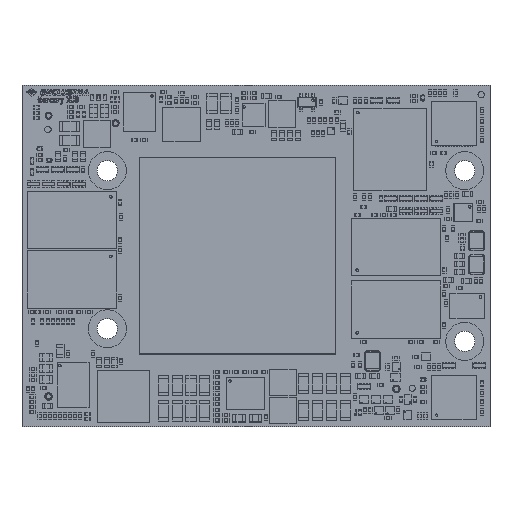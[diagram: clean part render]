
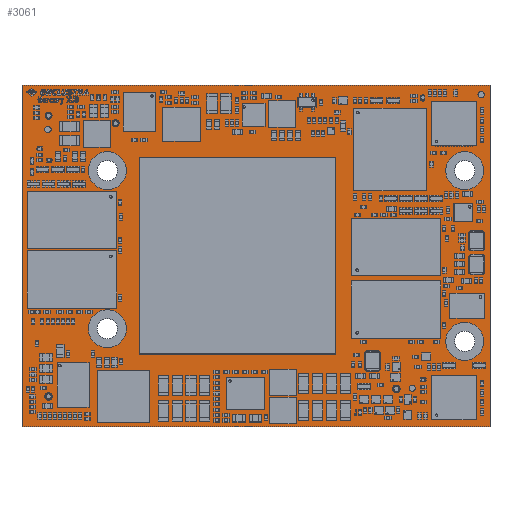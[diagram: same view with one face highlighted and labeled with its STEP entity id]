
A CAD part, top view. The second image highlights one B-rep face of the part: STEP entity #3061.
In plain terms, the highlighted planar face has unit normal (0, 0, 1).
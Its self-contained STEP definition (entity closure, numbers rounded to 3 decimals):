
#2572 = VERTEX_POINT('',#2573);
#2573 = CARTESIAN_POINT('',(0.,0.,1.6));
#2579 = EDGE_CURVE('',#2572,#2580,#2582,.T.);
#2580 = VERTEX_POINT('',#2581);
#2581 = CARTESIAN_POINT('',(74.,0.,1.6));
#2582 = LINE('',#2583,#2584);
#2583 = CARTESIAN_POINT('',(0.,0.,1.6));
#2584 = VECTOR('',#2585,1.);
#2585 = DIRECTION('',(1.,0.,0.));
#2610 = EDGE_CURVE('',#2580,#2611,#2613,.T.);
#2611 = VERTEX_POINT('',#2612);
#2612 = CARTESIAN_POINT('',(74.,54.,1.6));
#2613 = LINE('',#2614,#2615);
#2614 = CARTESIAN_POINT('',(74.,0.,1.6));
#2615 = VECTOR('',#2616,1.);
#2616 = DIRECTION('',(0.,1.,0.));
#2641 = EDGE_CURVE('',#2611,#2642,#2644,.T.);
#2642 = VERTEX_POINT('',#2643);
#2643 = CARTESIAN_POINT('',(0.,54.,1.6));
#2644 = LINE('',#2645,#2646);
#2645 = CARTESIAN_POINT('',(74.,54.,1.6));
#2646 = VECTOR('',#2647,1.);
#2647 = DIRECTION('',(-1.,0.,0.));
#2672 = EDGE_CURVE('',#2642,#2572,#2673,.T.);
#2673 = LINE('',#2674,#2675);
#2674 = CARTESIAN_POINT('',(0.,54.,1.6));
#2675 = VECTOR('',#2676,1.);
#2676 = DIRECTION('',(0.,-1.,0.));
#2696 = VERTEX_POINT('',#2697);
#2697 = CARTESIAN_POINT('',(4.8,4.8,1.6));
#2703 = EDGE_CURVE('',#2696,#2696,#2704,.T.);
#2704 = CIRCLE('',#2705,0.6);
#2705 = AXIS2_PLACEMENT_3D('',#2706,#2707,#2708);
#2706 = CARTESIAN_POINT('',(4.2,4.8,1.6));
#2707 = DIRECTION('',(0.,0.,1.));
#2708 = DIRECTION('',(1.,0.,0.));
#2729 = VERTEX_POINT('',#2730);
#2730 = CARTESIAN_POINT('',(15.35,6.,1.6));
#2736 = EDGE_CURVE('',#2729,#2729,#2737,.T.);
#2737 = CIRCLE('',#2738,0.55);
#2738 = AXIS2_PLACEMENT_3D('',#2739,#2740,#2741);
#2739 = CARTESIAN_POINT('',(14.8,6.,1.6));
#2740 = DIRECTION('',(0.,0.,1.));
#2741 = DIRECTION('',(1.,0.,0.));
#2762 = VERTEX_POINT('',#2763);
#2763 = CARTESIAN_POINT('',(4.75,49.2,1.6));
#2769 = EDGE_CURVE('',#2762,#2762,#2770,.T.);
#2770 = CIRCLE('',#2771,0.55);
#2771 = AXIS2_PLACEMENT_3D('',#2772,#2773,#2774);
#2772 = CARTESIAN_POINT('',(4.2,49.2,1.6));
#2773 = DIRECTION('',(0.,0.,1.));
#2774 = DIRECTION('',(1.,0.,0.));
#2795 = VERTEX_POINT('',#2796);
#2796 = CARTESIAN_POINT('',(15.1,15.5,1.6));
#2802 = EDGE_CURVE('',#2795,#2795,#2803,.T.);
#2803 = CIRCLE('',#2804,1.6);
#2804 = AXIS2_PLACEMENT_3D('',#2805,#2806,#2807);
#2805 = CARTESIAN_POINT('',(13.5,15.5,1.6));
#2806 = DIRECTION('',(0.,0.,1.));
#2807 = DIRECTION('',(1.,0.,0.));
#2828 = VERTEX_POINT('',#2829);
#2829 = CARTESIAN_POINT('',(15.1,40.5,1.6));
#2835 = EDGE_CURVE('',#2828,#2828,#2836,.T.);
#2836 = CIRCLE('',#2837,1.6);
#2837 = AXIS2_PLACEMENT_3D('',#2838,#2839,#2840);
#2838 = CARTESIAN_POINT('',(13.5,40.5,1.6));
#2839 = DIRECTION('',(0.,0.,1.));
#2840 = DIRECTION('',(1.,0.,0.));
#2861 = VERTEX_POINT('',#2862);
#2862 = CARTESIAN_POINT('',(59.8,6.,1.6));
#2868 = EDGE_CURVE('',#2861,#2861,#2869,.T.);
#2869 = CIRCLE('',#2870,0.6);
#2870 = AXIS2_PLACEMENT_3D('',#2871,#2872,#2873);
#2871 = CARTESIAN_POINT('',(59.2,6.,1.6));
#2872 = DIRECTION('',(0.,0.,1.));
#2873 = DIRECTION('',(1.,0.,0.));
#2894 = VERTEX_POINT('',#2895);
#2895 = CARTESIAN_POINT('',(71.6,13.5,1.6));
#2901 = EDGE_CURVE('',#2894,#2894,#2902,.T.);
#2902 = CIRCLE('',#2903,1.6);
#2903 = AXIS2_PLACEMENT_3D('',#2904,#2905,#2906);
#2904 = CARTESIAN_POINT('',(70.,13.5,1.6));
#2905 = DIRECTION('',(0.,0.,1.));
#2906 = DIRECTION('',(1.,0.,0.));
#2927 = VERTEX_POINT('',#2928);
#2928 = CARTESIAN_POINT('',(15.35,48.,1.6));
#2934 = EDGE_CURVE('',#2927,#2927,#2935,.T.);
#2935 = CIRCLE('',#2936,0.55);
#2936 = AXIS2_PLACEMENT_3D('',#2937,#2938,#2939);
#2937 = CARTESIAN_POINT('',(14.8,48.,1.6));
#2938 = DIRECTION('',(0.,0.,1.));
#2939 = DIRECTION('',(1.,0.,0.));
#2960 = VERTEX_POINT('',#2961);
#2961 = CARTESIAN_POINT('',(71.6,40.5,1.6));
#2967 = EDGE_CURVE('',#2960,#2960,#2968,.T.);
#2968 = CIRCLE('',#2969,1.6);
#2969 = AXIS2_PLACEMENT_3D('',#2970,#2971,#2972);
#2970 = CARTESIAN_POINT('',(70.,40.5,1.6));
#2971 = DIRECTION('',(0.,0.,1.));
#2972 = DIRECTION('',(1.,0.,0.));
#2993 = VERTEX_POINT('',#2994);
#2994 = CARTESIAN_POINT('',(59.8,48.,1.6));
#3000 = EDGE_CURVE('',#2993,#2993,#3001,.T.);
#3001 = CIRCLE('',#3002,0.6);
#3002 = AXIS2_PLACEMENT_3D('',#3003,#3004,#3005);
#3003 = CARTESIAN_POINT('',(59.2,48.,1.6));
#3004 = DIRECTION('',(0.,0.,1.));
#3005 = DIRECTION('',(1.,0.,0.));
#3061 = ADVANCED_FACE('',(#3062,#3068,#3071,#3074,#3077,#3080,#3083,
    #3086,#3089,#3092,#3095),#3098,.F.);
#3062 = FACE_BOUND('',#3063,.T.);
#3063 = EDGE_LOOP('',(#3064,#3065,#3066,#3067));
#3064 = ORIENTED_EDGE('',*,*,#2579,.T.);
#3065 = ORIENTED_EDGE('',*,*,#2610,.T.);
#3066 = ORIENTED_EDGE('',*,*,#2641,.T.);
#3067 = ORIENTED_EDGE('',*,*,#2672,.T.);
#3068 = FACE_BOUND('',#3069,.F.);
#3069 = EDGE_LOOP('',(#3070));
#3070 = ORIENTED_EDGE('',*,*,#2703,.T.);
#3071 = FACE_BOUND('',#3072,.F.);
#3072 = EDGE_LOOP('',(#3073));
#3073 = ORIENTED_EDGE('',*,*,#2736,.T.);
#3074 = FACE_BOUND('',#3075,.F.);
#3075 = EDGE_LOOP('',(#3076));
#3076 = ORIENTED_EDGE('',*,*,#2769,.T.);
#3077 = FACE_BOUND('',#3078,.F.);
#3078 = EDGE_LOOP('',(#3079));
#3079 = ORIENTED_EDGE('',*,*,#2802,.T.);
#3080 = FACE_BOUND('',#3081,.F.);
#3081 = EDGE_LOOP('',(#3082));
#3082 = ORIENTED_EDGE('',*,*,#2835,.T.);
#3083 = FACE_BOUND('',#3084,.F.);
#3084 = EDGE_LOOP('',(#3085));
#3085 = ORIENTED_EDGE('',*,*,#2868,.T.);
#3086 = FACE_BOUND('',#3087,.F.);
#3087 = EDGE_LOOP('',(#3088));
#3088 = ORIENTED_EDGE('',*,*,#2901,.T.);
#3089 = FACE_BOUND('',#3090,.F.);
#3090 = EDGE_LOOP('',(#3091));
#3091 = ORIENTED_EDGE('',*,*,#2934,.T.);
#3092 = FACE_BOUND('',#3093,.F.);
#3093 = EDGE_LOOP('',(#3094));
#3094 = ORIENTED_EDGE('',*,*,#2967,.T.);
#3095 = FACE_BOUND('',#3096,.F.);
#3096 = EDGE_LOOP('',(#3097));
#3097 = ORIENTED_EDGE('',*,*,#3000,.T.);
#3098 = PLANE('',#3099);
#3099 = AXIS2_PLACEMENT_3D('',#3100,#3101,#3102);
#3100 = CARTESIAN_POINT('',(0.,0.,1.6));
#3101 = DIRECTION('',(0.,0.,-1.));
#3102 = DIRECTION('',(-1.,0.,0.));
